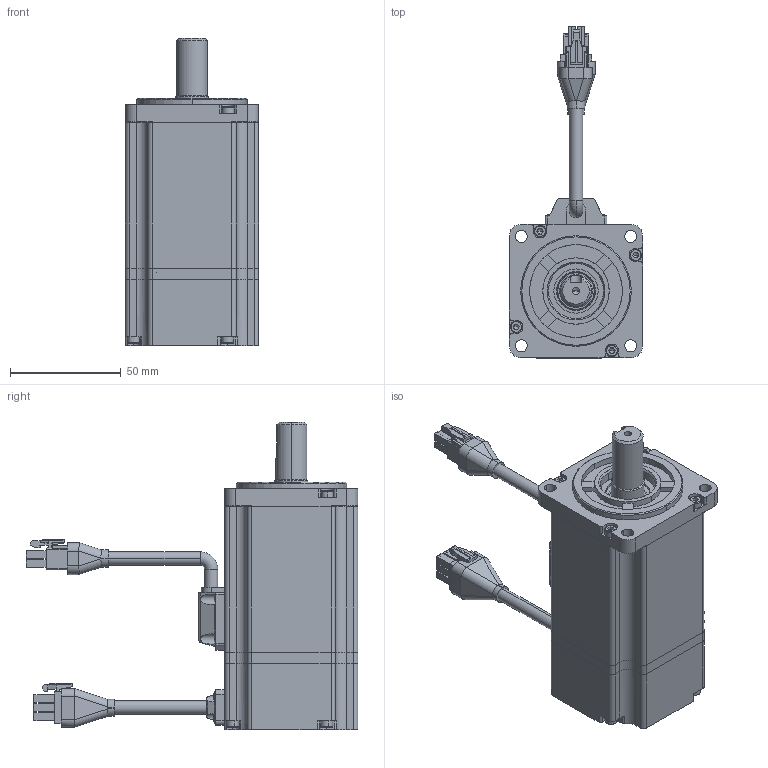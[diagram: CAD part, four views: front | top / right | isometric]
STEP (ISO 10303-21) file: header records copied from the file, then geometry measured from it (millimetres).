
FILE_DESCRIPTION (( 'STEP AP203' ), '1' );
FILE_NAME ('R60-400.STEP', '2019-08-23T07:08:32', ( '1' ), ( 'MideaGroup IT' ), 'SwSTEP 2.0', 'SolidWorks 2012', '' );
FILE_SCHEMA (( 'CONFIG_CONTROL_DESIGN' ));
Length unit declared in the file: millimetre
Products named in the file (25): R60-400; M3X28_GB_FASTENER_SCREWS_HSHCS M3X25-C; 雄薯盄揤裔郪璃; 雄薯盄傷赽裔; 雄薯盄; 雄薯盄傷赽; 雄薯盄躇猾菜; 雄薯盄揤裔; 毀嚏盄揤裔郪璃; 毀嚏盄傷赽揤裔; M2.5X5_GB_CROSS_SCREWS_TYPE3 M2.5X8-8-N; 晤鎢ん盄傷赽; 晤鎢ん盄揤裔躇猾; 晤鎢ん盄揤裔; 蛌赽郪璃-001; 6003; 6003_qiu; 6003_bq; 6003_nh; 6003_wq; 萇儂粣-001; 綴裔-001; 綴傷裔-001; ヶ傷裔-001; 儂褲-001
Assembly tree (48 placements, depth 4):
  R60-400
    儂褲-001
    ヶ傷裔-001
    綴傷裔-001
    綴裔-001
    蛌赽郪璃-001
      萇儂粣-001
      6003
        6003_wq
        6003_nh
        6003_bq
        6003_qiu  x11
    毀嚏盄揤裔郪璃
      晤鎢ん盄揤裔
      晤鎢ん盄揤裔躇猾
      晤鎢ん盄傷赽
      M2.5X5_GB_CROSS_SCREWS_TYPE3 M2.5X8-8-N  x4
      毀嚏盄傷赽揤裔
    雄薯盄揤裔郪璃
      雄薯盄揤裔
      雄薯盄躇猾菜
      雄薯盄傷赽
      雄薯盄
      M2.5X5_GB_CROSS_SCREWS_TYPE3 M2.5X8-8-N  x4
      雄薯盄傷赽裔
    M3X28_GB_FASTENER_SCREWS_HSHCS M3X25-C  x8
Bounding box: 60.2 x 150 x 139 mm (x, y, z)
Volume: 144734.3 mm3; surface area: 98764.2 mm2
Topology: 46 solids, 72 shells, 1570 faces, 4264 edges, 2810 vertices
Faces by surface type: plane 766, cylinder 607, cone 89, torus 56, sphere 38, bspline 14
Entity records: 46415 total; most frequent: CARTESIAN_POINT 11961, DIRECTION 6596, ORIENTED_EDGE 6293, EDGE_CURVE 3327, AXIS2_PLACEMENT_3D 2333, VERTEX_POINT 2214, VECTOR 1930, LINE 1930
